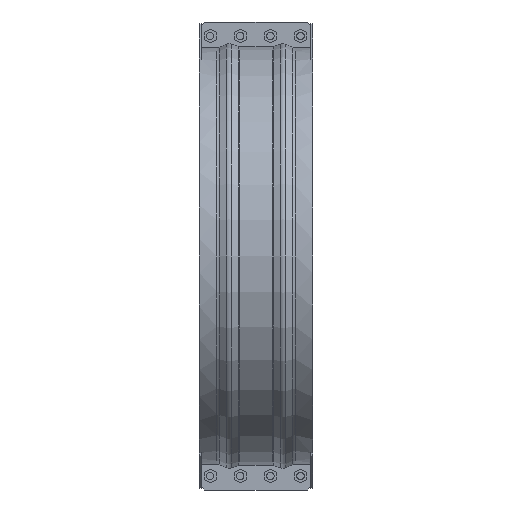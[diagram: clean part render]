
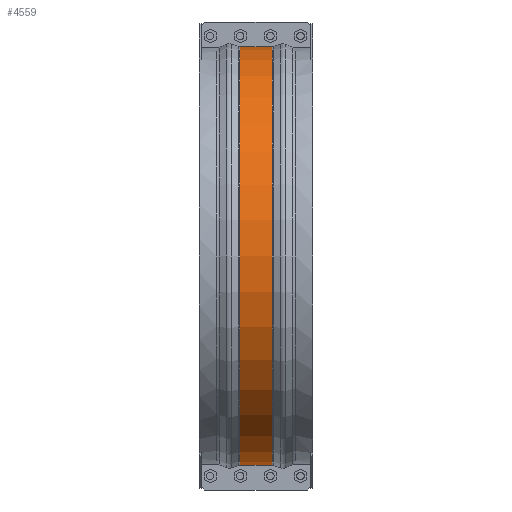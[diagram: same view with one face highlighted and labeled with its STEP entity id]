
A CAD part, front view. The second image highlights one B-rep face of the part: STEP entity #4559.
In plain terms, the highlighted cylindrical face has radius 705.152 mm (diameter 1410.3 mm), a partial arc.
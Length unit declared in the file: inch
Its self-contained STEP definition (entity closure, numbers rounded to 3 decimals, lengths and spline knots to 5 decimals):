
#414=FACE_OUTER_BOUND('',#671,.T.);
#671=EDGE_LOOP('',(#3465,#3466,#3467,#3468));
#1036=LINE('',#7017,#1485);
#1044=LINE('',#7149,#1493);
#1485=VECTOR('',#5630,0.3937);
#1493=VECTOR('',#5690,0.3937);
#1771=CIRCLE('',#4875,27.76189);
#1773=CIRCLE('',#4879,27.76189);
#2060=VERTEX_POINT('',#7009);
#2061=VERTEX_POINT('',#7016);
#2076=VERTEX_POINT('',#7134);
#2078=VERTEX_POINT('',#7147);
#2565=EDGE_CURVE('',#2061,#2060,#1036,.T.);
#2590=EDGE_CURVE('',#2076,#2061,#1771,.T.);
#2594=EDGE_CURVE('',#2078,#2060,#1773,.T.);
#2595=EDGE_CURVE('',#2078,#2076,#1044,.T.);
#3465=ORIENTED_EDGE('',*,*,#2565,.T.);
#3466=ORIENTED_EDGE('',*,*,#2594,.F.);
#3467=ORIENTED_EDGE('',*,*,#2595,.T.);
#3468=ORIENTED_EDGE('',*,*,#2590,.T.);
#4182=CYLINDRICAL_SURFACE('',#4878,27.76189);
#4559=ADVANCED_FACE('',(#414),#4182,.T.);
#4875=AXIS2_PLACEMENT_3D('',#7135,#5679,#5680);
#4878=AXIS2_PLACEMENT_3D('',#7146,#5686,#5687);
#4879=AXIS2_PLACEMENT_3D('',#7148,#5688,#5689);
#5630=DIRECTION('',(1.,0.,0.));
#5679=DIRECTION('center_axis',(1.,0.,0.));
#5680=DIRECTION('ref_axis',(0.,0.,-1.));
#5686=DIRECTION('center_axis',(1.,0.,0.));
#5687=DIRECTION('ref_axis',(0.,-1.,0.));
#5688=DIRECTION('center_axis',(1.,0.,0.));
#5689=DIRECTION('ref_axis',(0.,0.,-1.));
#5690=DIRECTION('',(-1.,0.,0.));
#7009=CARTESIAN_POINT('',(2.15101,-0.375,-27.75936));
#7016=CARTESIAN_POINT('',(-2.15101,-0.375,-27.75936));
#7017=CARTESIAN_POINT('',(0.,-0.375,-27.75936));
#7134=CARTESIAN_POINT('',(-2.15101,-0.375,27.75936));
#7135=CARTESIAN_POINT('Origin',(-2.15101,0.,0.));
#7146=CARTESIAN_POINT('Origin',(0.,0.,0.));
#7147=CARTESIAN_POINT('',(2.15101,-0.375,27.75936));
#7148=CARTESIAN_POINT('Origin',(2.15101,0.,0.));
#7149=CARTESIAN_POINT('',(0.,-0.375,27.75936));
